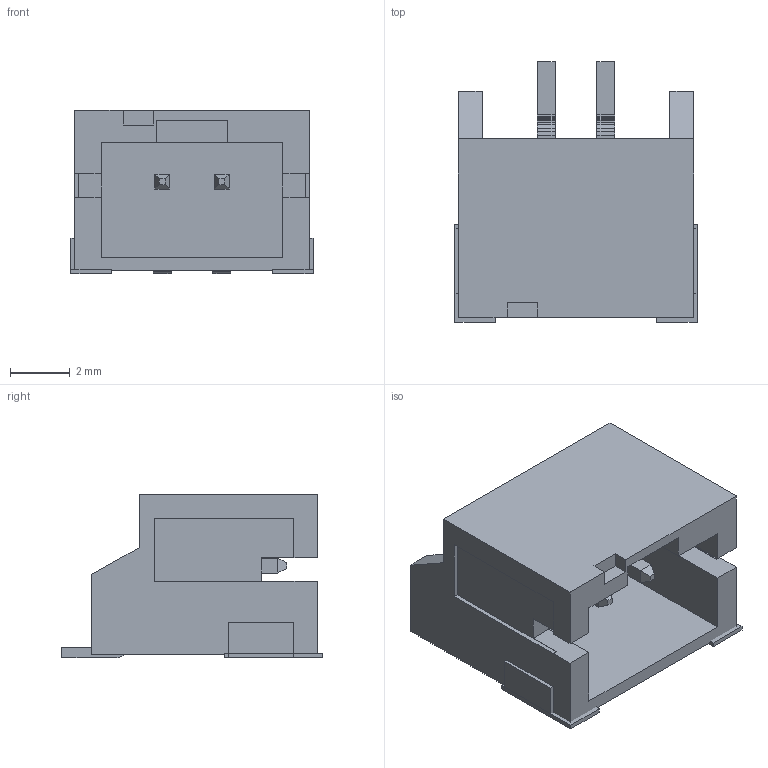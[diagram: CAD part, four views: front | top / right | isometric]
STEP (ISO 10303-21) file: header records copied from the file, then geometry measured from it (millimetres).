
FILE_DESCRIPTION(('Open CASCADE Model'),'2;1');
FILE_NAME('Open CASCADE Shape Model','2026-10-15T18:31:38',('Author'),( 'Open CASCADE'),'Open CASCADE STEP processor 7.9','Open CASCADE 7.9' ,'Unknown');
FILE_SCHEMA(('AUTOMOTIVE_DESIGN { 1 0 10303 214 1 1 1 1 }'));
Length unit declared in the file: millimetre
Products named in the file (3): JST_PH_S2B-PH-SM4-TB_1x02-1MP_P2.00mm_Horizontal; housing; pins
Assembly tree (2 placements, depth 2):
  JST_PH_S2B-PH-SM4-TB_1x02-1MP_P2.00mm_Horizontal
    housing
    pins
Bounding box: 8.14 x 8.75 x 5.5 mm (x, y, z)
Volume: 149.2 mm3; surface area: 440.4 mm2
Topology: 11 solids, 11 shells, 160 faces, 414 edges, 276 vertices
Faces by surface type: plane 152, bspline 8
Entity records: 11393 total; most frequent: CARTESIAN_POINT 1721, DIRECTION 1536, LINE 1226, VECTOR 1226, ORIENTED_EDGE 828, PCURVE 828, DEFINITIONAL_REPRESENTATION 828, EDGE_CURVE 414
